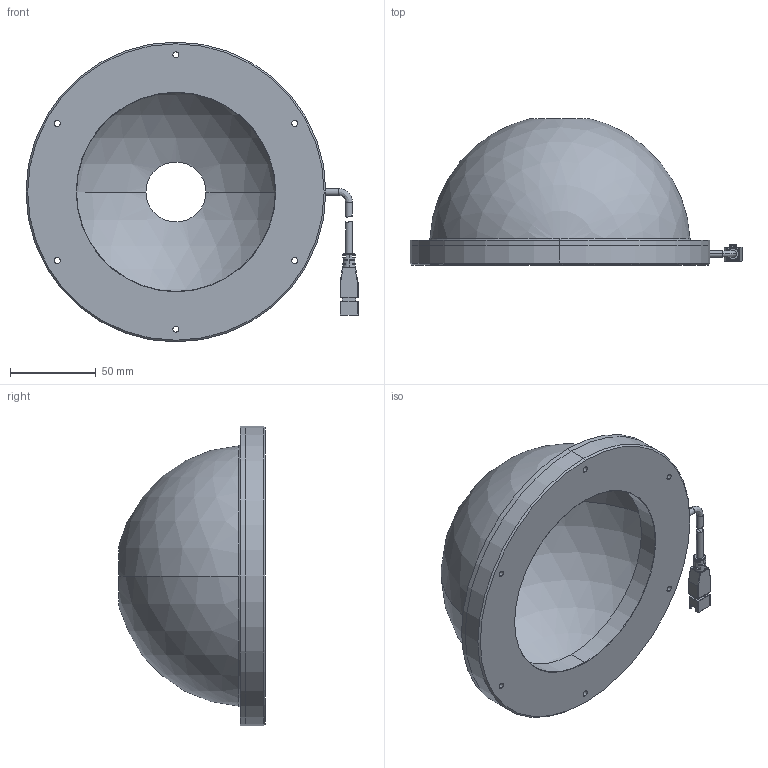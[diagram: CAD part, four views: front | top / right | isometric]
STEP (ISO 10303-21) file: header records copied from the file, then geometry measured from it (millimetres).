
FILE_DESCRIPTION (( 'STEP AP203' ), '1' );
FILE_NAME ('CRT-DL175-¼òÒ×3DÍ¼.STEP', '2022-04-26T00:54:19', ( 'Admin' ), ( '' ), 'SwSTEP 2.0', 'SolidWorks 2018', '' );
FILE_SCHEMA (( 'CONFIG_CONTROL_DESIGN' ));
Length unit declared in the file: millimetre
Products named in the file (1): CRT-DL175-潠眢3D芞
Bounding box: 193.75 x 85.46 x 175 mm (x, y, z)
Surface area: 113838.5 mm2 (no closed solid volume)
Topology: 0 solids, 4 shells, 232 faces, 718 edges, 480 vertices
Faces by surface type: plane 110, cylinder 96, bspline 14, cone 6, sphere 4, torus 2
Entity records: 9637 total; most frequent: CARTESIAN_POINT 3116, DIRECTION 1356, ORIENTED_EDGE 1267, EDGE_CURVE 716, VERTEX_POINT 480, AXIS2_PLACEMENT_3D 475, LINE 406, VECTOR 406
